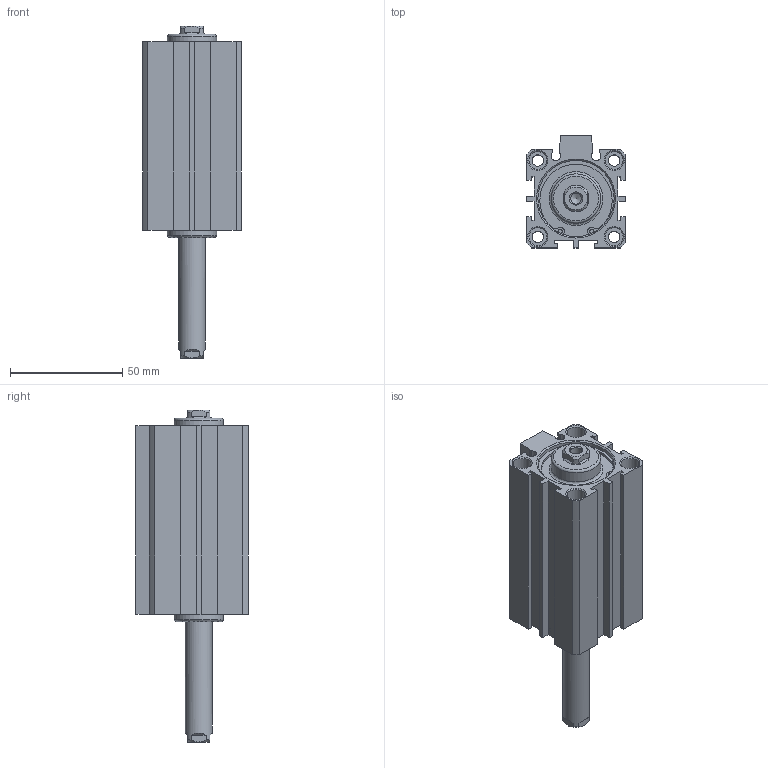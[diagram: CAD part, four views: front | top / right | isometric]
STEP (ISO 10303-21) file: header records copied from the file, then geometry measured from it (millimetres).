
FILE_DESCRIPTION((''),'2;1');
FILE_NAME('I:\3D電子目錄\氣缸\JDD\JDD-S\JDD32-S\JDD32x50-S.stp','2007-02-08T14:52:52',('662F206'),(''),'Autodesk Inventor 10','Autodesk Inventor 10','');
FILE_SCHEMA(('AUTOMOTIVE_DESIGN { 1 0 10303 214 1 1 1 1 }'));
Length unit declared in the file: millimetre
Products named in the file (3): JDD32-S; R 形環 35
Assembly tree (3 placements, depth 2):
  JDD32-S
    JDD32-S
    R 形環 35  x2
Bounding box: 44 x 50 x 148 mm (x, y, z)
Volume: 148539.9 mm3; surface area: 37755.1 mm2
Topology: 3 solids, 3 shells, 177 faces, 425 edges, 276 vertices
Faces by surface type: plane 94, cylinder 49, cone 22, bspline 10, torus 2
Full cylindrical faces by diameter (mm): 1.9 x4, 2.2 x2, 5.1 x4, 8 x8, 12 x1, 22 x2, 34 x4, 36 x2
Entity records: 4715 total; most frequent: CARTESIAN_POINT 983, DIRECTION 774, ORIENTED_EDGE 674, EDGE_CURVE 337, AXIS2_PLACEMENT_3D 292, EDGE_LOOP 248, VERTEX_POINT 247, VECTOR 190
